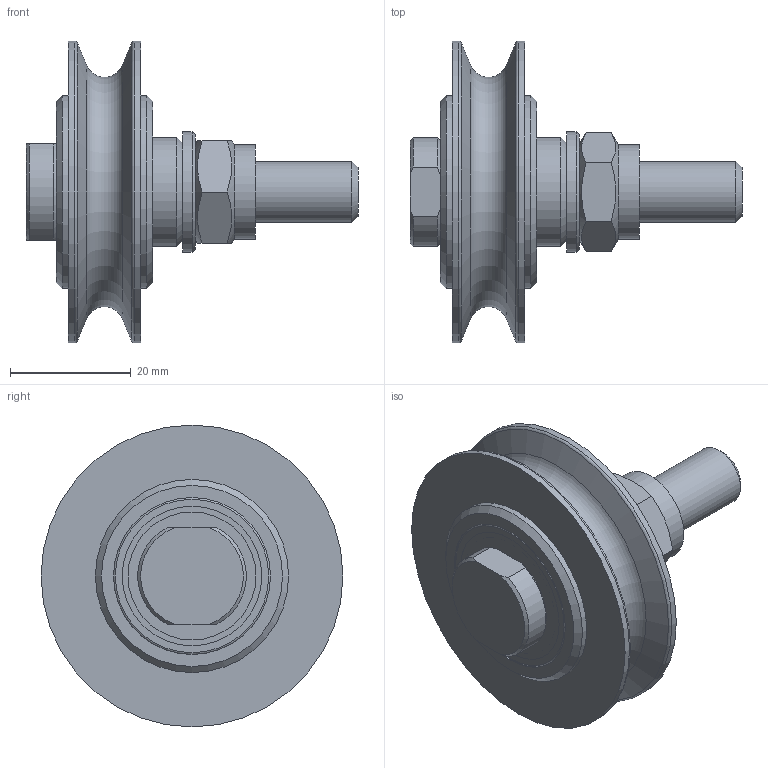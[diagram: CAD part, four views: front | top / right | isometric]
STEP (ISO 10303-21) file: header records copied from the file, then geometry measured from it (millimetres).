
FILE_DESCRIPTION(/* description */ ('Seilrolle ø50 feststehende Achse'),/* implementation_level */ '2;1');
FILE_NAME(/* name */ 'Z:\Workspace\03 Seilrollen\1.408 K Seilrollen feststehende Achse Kugellager\1.408.01 K Seilrolle ø50 feststehende Achse KL\1.408.01 K Seilrolle ø50 feststehende Achse.stp',/* time_stamp */ '2021-10-11T09:02:07+02:00',/* author */ ('cad-user'),/* organization */ (''),/* preprocessor_version */ 'ST-DEVELOPER v18',/* originating_system */ 'Autodesk Inventor 2020',/* authorisation */ '');
FILE_SCHEMA (('AUTOMOTIVE_DESIGN { 1 0 10303 214 3 1 1 }'));
Length unit declared in the file: millimetre
Products named in the file (13): 1.408.01 K Seilrolle ø50 feststehende Achse; 1.402.01 Seilrolle ø50 Kugellager komplett; 1.402.01 Seilrolle ø50 Kugellager; DIN625 - 6000-2RS; din625_-_6000-2rs_0_05; din625_-_6000-2rs_0_04; din625_-_6000-2rs_0_03; din625_-_6000-2rs_0_02; din625_-_6000-2rs_0_01; 1.408.01.02 Scheibe; 1.408.01.01 Schraube; DIN 125-1 - B 10,5; DIN 985 - M10
Assembly tree (13 placements, depth 4):
  1.408.01 K Seilrolle ø50 feststehende Achse
    1.402.01 Seilrolle ø50 Kugellager komplett
      1.402.01 Seilrolle ø50 Kugellager
      DIN625 - 6000-2RS  x2
        din625_-_6000-2rs_0_05
        din625_-_6000-2rs_0_04
        din625_-_6000-2rs_0_03
        din625_-_6000-2rs_0_02
        din625_-_6000-2rs_0_01
    1.408.01.02 Scheibe
    1.408.01.01 Schraube
    DIN 125-1 - B 10,5
    DIN 985 - M10
Bounding box: 55 x 50 x 50 mm (x, y, z)
Volume: 26047.8 mm3; surface area: 20365.9 mm2
Topology: 15 solids, 15 shells, 145 faces, 387 edges, 279 vertices
Faces by surface type: plane 45, cylinder 42, torus 29, cone 15, sphere 14
Full cylindrical faces by diameter (mm): 2.459 x1, 10 x3, 10.5 x1, 11 x1, 11.8 x8, 14.8 x4, 15.6 x1, 18 x1, 20 x1, 21.2 x4, 23.1 x8, 26 x3, 32 x2, 50 x2
Entity records: 4053 total; most frequent: CARTESIAN_POINT 1067, DIRECTION 589, ORIENTED_EDGE 486, AXIS2_PLACEMENT_3D 269, EDGE_CURVE 243, VERTEX_POINT 183, CIRCLE 144, EDGE_LOOP 136
